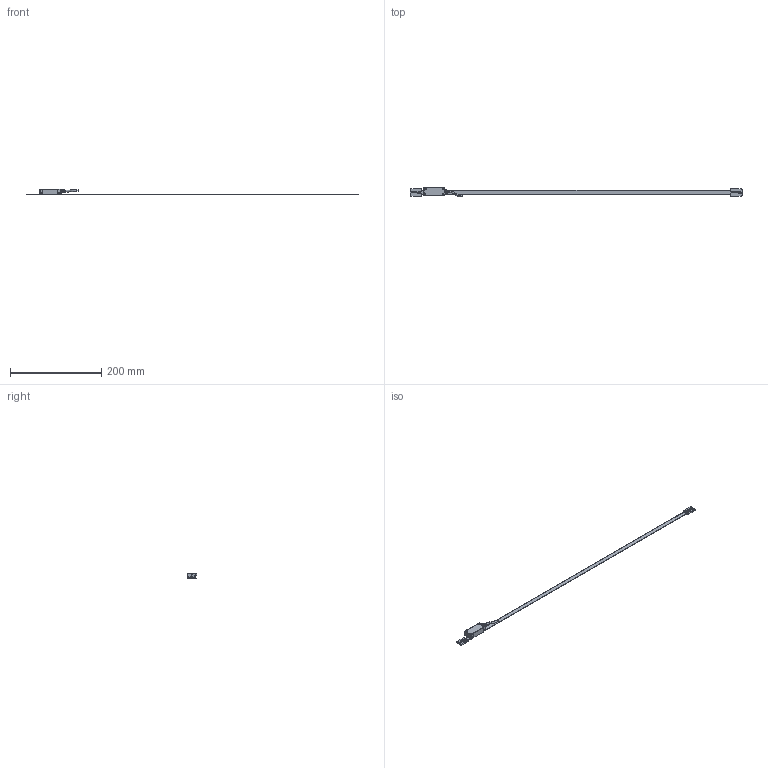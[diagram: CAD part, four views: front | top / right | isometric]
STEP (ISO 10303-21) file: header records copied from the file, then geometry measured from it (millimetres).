
FILE_DESCRIPTION(('Creo Elements/Direct Modeling STEP Export'),'2;1');
FILE_NAME('EXAA-620.stp','2017-01-11T16:47:34',(''),(''),'Creo Elements/Direct Modeling STEP processor for AP214 (Solid Model)','Creo Elements/Direct Modeling 18.1H 24-Oct-2015 (C) Parametric Technology GmbH','');
FILE_SCHEMA(('AUTOMOTIVE_DESIGN { 1 0 10303 214 1 1 1 1 }'));
Length unit declared in the file: millimetre
Products named in the file (7): CABEZA_EXPOSED; FLEJE_REGLA_EXPOSED_620; TOPE_FLEJE_PEGADO; TOPE_FLEJE_PEGADO.1
Assembly tree (4 placements, depth 2):
  CABEZA_EXPOSED
    CABEZA_EXPOSED
  FLEJE_REGLA_EXPOSED_620
    FLEJE_REGLA_EXPOSED_620
  TOPE_FLEJE_PEGADO
    TOPE_FLEJE_PEGADO
  TOPE_FLEJE_PEGADO.1
    TOPE_FLEJE_PEGADO
Bounding box: 726 x 20.7 x 13.1 mm (x, y, z)
Volume: 14340.5 mm3; surface area: 21257.2 mm2
Topology: 4 solids, 10 shells, 929 faces, 2589 edges, 1700 vertices
Faces by surface type: plane 741, cylinder 130, cone 46, torus 12
Entity records: 18785 total; most frequent: CARTESIAN_POINT 3390, ORIENTED_EDGE 3200, DIRECTION 2779, EDGE_CURVE 1600, VECTOR 1279, LINE 1279, VERTEX_POINT 1046, AXIS2_PLACEMENT_3D 750
